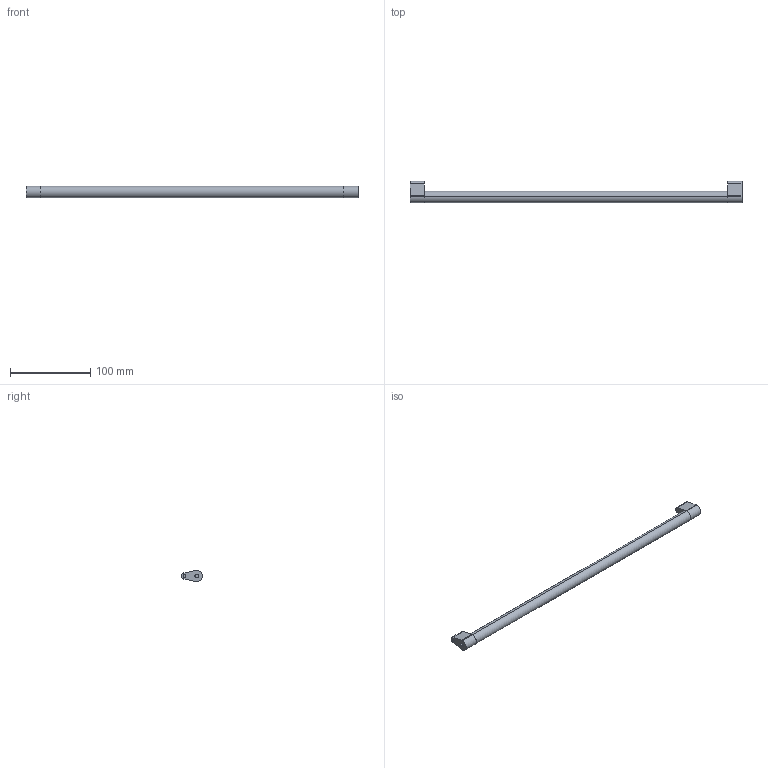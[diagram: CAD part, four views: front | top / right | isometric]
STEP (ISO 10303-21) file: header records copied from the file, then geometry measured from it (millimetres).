
FILE_DESCRIPTION (( 'STEP AP214' ), '1' );
FILE_NAME ('_Synchronisationseinheit Nova Pro KAB500_S16.step', '2010-07-08T13:58:28', ( 'grass' ), ( '' ), 'SwSTEP 2.0', 'SolidWorks 2010', '' );
FILE_SCHEMA (( 'AUTOMOTIVE_DESIGN' ));
Length unit declared in the file: millimetre
Products named in the file (1): _Synchronisationseinheit Nova Pro KAB500_S16
Bounding box: 415 x 26.5 x 14 mm (x, y, z)
Volume: 67571.1 mm3; surface area: 21099.6 mm2
Topology: 3 solids, 3 shells, 36 faces, 78 edges, 52 vertices
Faces by surface type: cylinder 18, plane 18
Entity records: 1050 total; most frequent: DIRECTION 188, CARTESIAN_POINT 167, ORIENTED_EDGE 156, EDGE_CURVE 78, AXIS2_PLACEMENT_3D 73, VERTEX_POINT 52, VECTOR 42, LINE 42
